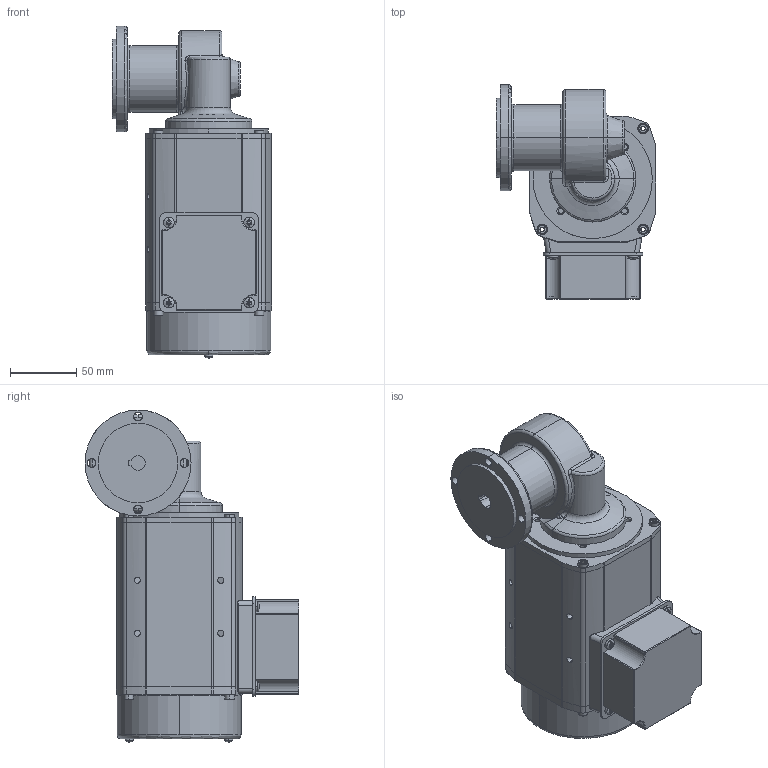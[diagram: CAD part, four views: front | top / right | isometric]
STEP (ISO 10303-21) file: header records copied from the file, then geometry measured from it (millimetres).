
FILE_DESCRIPTION (( 'STEP AP203' ), '1' );
FILE_NAME ('SN5FLHG-120W-C.STEP', '2017-04-18T10:26:28', ( '' ), ( '' ), 'SwSTEP 2.0', 'SolidWorks 2015', '' );
FILE_SCHEMA (( 'CONFIG_CONTROL_DESIGN' ));
Length unit declared in the file: millimetre
Products named in the file (3): SN5FLH-Lose; NU9065 oF; SN5FLHG-120W-C
Assembly tree (2 placements, depth 2):
  SN5FLHG-120W-C
    SN5FLH-Lose
    NU9065 oF
Bounding box: 120.2 x 161.5 x 250.57 mm (x, y, z)
Volume: 314266.5 mm3; surface area: 147248.7 mm2
Topology: 1 solids, 103 shells, 611 faces, 2181 edges, 1646 vertices
Faces by surface type: cylinder 238, plane 188, bspline 84, cone 77, torus 24
Entity records: 31579 total; most frequent: CARTESIAN_POINT 13729, DIRECTION 3480, ORIENTED_EDGE 3298, EDGE_CURVE 2179, VERTEX_POINT 1646, AXIS2_PLACEMENT_3D 1299, VECTOR 882, LINE 882
